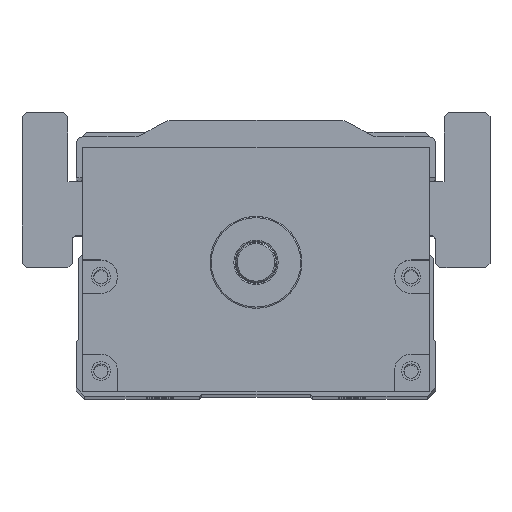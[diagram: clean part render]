
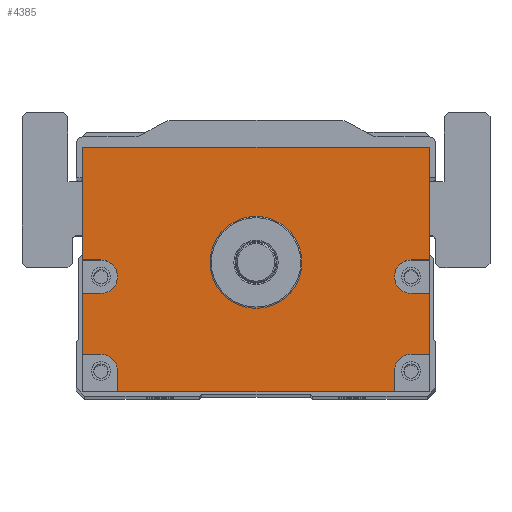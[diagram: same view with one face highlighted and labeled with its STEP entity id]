
A CAD part, top view. The second image highlights one B-rep face of the part: STEP entity #4385.
In plain terms, the highlighted planar face has unit normal (0, 0, 1).
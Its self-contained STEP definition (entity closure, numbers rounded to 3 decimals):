
#3754=FACE_BOUND('',#5991,.T.);
#3755=FACE_BOUND('',#5992,.T.);
#4385=ADVANCED_FACE('',(#3754,#3755),#4898,.T.);
#4898=PLANE('',#14887);
#5991=EDGE_LOOP('',(#9720,#9721,#9722,#9723,#9724,#9725,#9726,#9727,#9728,
#9729,#9730,#9731,#9732,#9733,#9734,#9735,#9736,#9737));
#5992=EDGE_LOOP('',(#9738));
#6894=LINE('',#21250,#7694);
#6896=LINE('',#21258,#7696);
#6897=LINE('',#21261,#7697);
#6898=LINE('',#21263,#7698);
#6899=LINE('',#21267,#7699);
#6900=LINE('',#21269,#7700);
#6901=LINE('',#21270,#7701);
#6902=LINE('',#21272,#7702);
#6903=LINE('',#21276,#7703);
#6904=LINE('',#21278,#7704);
#6905=LINE('',#21280,#7705);
#6906=LINE('',#21284,#7706);
#6907=LINE('',#21286,#7707);
#6908=LINE('',#21288,#7708);
#7694=VECTOR('',#17032,1.);
#7696=VECTOR('',#17040,1.);
#7697=VECTOR('',#17041,1.);
#7698=VECTOR('',#17042,1.);
#7699=VECTOR('',#17045,1.);
#7700=VECTOR('',#17046,1.);
#7701=VECTOR('',#17047,1.);
#7702=VECTOR('',#17048,1.);
#7703=VECTOR('',#17051,1.);
#7704=VECTOR('',#17052,1.);
#7705=VECTOR('',#17053,1.);
#7706=VECTOR('',#17056,1.);
#7707=VECTOR('',#17057,1.);
#7708=VECTOR('',#17058,1.);
#9720=ORIENTED_EDGE('',*,*,#13112,.F.);
#9721=ORIENTED_EDGE('',*,*,#13113,.T.);
#9722=ORIENTED_EDGE('',*,*,#13114,.F.);
#9723=ORIENTED_EDGE('',*,*,#13115,.F.);
#9724=ORIENTED_EDGE('',*,*,#13116,.F.);
#9725=ORIENTED_EDGE('',*,*,#13117,.T.);
#9726=ORIENTED_EDGE('',*,*,#13108,.T.);
#9727=ORIENTED_EDGE('',*,*,#13118,.T.);
#9728=ORIENTED_EDGE('',*,*,#13119,.F.);
#9729=ORIENTED_EDGE('',*,*,#13120,.F.);
#9730=ORIENTED_EDGE('',*,*,#13121,.F.);
#9731=ORIENTED_EDGE('',*,*,#13122,.T.);
#9732=ORIENTED_EDGE('',*,*,#13123,.F.);
#9733=ORIENTED_EDGE('',*,*,#13124,.F.);
#9734=ORIENTED_EDGE('',*,*,#13125,.F.);
#9735=ORIENTED_EDGE('',*,*,#13126,.T.);
#9736=ORIENTED_EDGE('',*,*,#13127,.F.);
#9737=ORIENTED_EDGE('',*,*,#13128,.F.);
#9738=ORIENTED_EDGE('',*,*,#13094,.T.);
#11743=VERTEX_POINT('',#21221);
#11756=VERTEX_POINT('',#21249);
#11757=VERTEX_POINT('',#21251);
#11760=VERTEX_POINT('',#21259);
#11761=VERTEX_POINT('',#21260);
#11762=VERTEX_POINT('',#21262);
#11763=VERTEX_POINT('',#21264);
#11764=VERTEX_POINT('',#21266);
#11765=VERTEX_POINT('',#21268);
#11766=VERTEX_POINT('',#21271);
#11767=VERTEX_POINT('',#21273);
#11768=VERTEX_POINT('',#21275);
#11769=VERTEX_POINT('',#21277);
#11770=VERTEX_POINT('',#21279);
#11771=VERTEX_POINT('',#21281);
#11772=VERTEX_POINT('',#21283);
#11773=VERTEX_POINT('',#21285);
#11774=VERTEX_POINT('',#21287);
#11775=VERTEX_POINT('',#21289);
#13094=EDGE_CURVE('',#11743,#11743,#14055,.T.);
#13108=EDGE_CURVE('',#11757,#11756,#6894,.T.);
#13112=EDGE_CURVE('',#11760,#11761,#6896,.T.);
#13113=EDGE_CURVE('',#11760,#11762,#6897,.T.);
#13114=EDGE_CURVE('',#11763,#11762,#6898,.T.);
#13115=EDGE_CURVE('',#11764,#11763,#14066,.T.);
#13116=EDGE_CURVE('',#11765,#11764,#6899,.T.);
#13117=EDGE_CURVE('',#11765,#11757,#6900,.T.);
#13118=EDGE_CURVE('',#11756,#11766,#6901,.T.);
#13119=EDGE_CURVE('',#11767,#11766,#6902,.T.);
#13120=EDGE_CURVE('',#11768,#11767,#14067,.T.);
#13121=EDGE_CURVE('',#11769,#11768,#6903,.T.);
#13122=EDGE_CURVE('',#11769,#11770,#6904,.T.);
#13123=EDGE_CURVE('',#11771,#11770,#6905,.T.);
#13124=EDGE_CURVE('',#11772,#11771,#14068,.T.);
#13125=EDGE_CURVE('',#11773,#11772,#6906,.T.);
#13126=EDGE_CURVE('',#11773,#11774,#6907,.T.);
#13127=EDGE_CURVE('',#11775,#11774,#6908,.T.);
#13128=EDGE_CURVE('',#11761,#11775,#14069,.T.);
#14055=CIRCLE('',#14869,11.);
#14066=CIRCLE('',#14883,4.);
#14067=CIRCLE('',#14884,4.);
#14068=CIRCLE('',#14885,4.);
#14069=CIRCLE('',#14886,4.);
#14869=AXIS2_PLACEMENT_3D('',#21220,#17005,#17006);
#14883=AXIS2_PLACEMENT_3D('',#21265,#17043,#17044);
#14884=AXIS2_PLACEMENT_3D('',#21274,#17049,#17050);
#14885=AXIS2_PLACEMENT_3D('',#21282,#17054,#17055);
#14886=AXIS2_PLACEMENT_3D('',#21290,#17059,#17060);
#14887=AXIS2_PLACEMENT_3D('',#21291,#17061,#17062);
#17005=DIRECTION('',(0.,0.,-1.));
#17006=DIRECTION('',(1.,0.,0.));
#17032=DIRECTION('',(-1.,0.,0.));
#17040=DIRECTION('',(-1.,0.,0.));
#17041=DIRECTION('',(0.,1.,0.));
#17042=DIRECTION('',(1.,0.,0.));
#17043=DIRECTION('',(0.,0.,1.));
#17044=DIRECTION('',(1.,0.,0.));
#17045=DIRECTION('',(-1.,0.,0.));
#17046=DIRECTION('',(0.,1.,0.));
#17047=DIRECTION('',(0.,-1.,0.));
#17048=DIRECTION('',(-1.,0.,0.));
#17049=DIRECTION('',(0.,0.,1.));
#17050=DIRECTION('',(1.,0.,0.));
#17051=DIRECTION('',(1.,0.,0.));
#17052=DIRECTION('',(0.,-1.,0.));
#17053=DIRECTION('',(-1.,0.,0.));
#17054=DIRECTION('',(0.,0.,1.));
#17055=DIRECTION('',(1.,0.,0.));
#17056=DIRECTION('',(0.,1.,0.));
#17057=DIRECTION('',(1.,0.,0.));
#17058=DIRECTION('',(0.,-1.,0.));
#17059=DIRECTION('',(0.,0.,1.));
#17060=DIRECTION('',(1.,0.,0.));
#17061=DIRECTION('',(0.,0.,1.));
#17062=DIRECTION('',(1.,0.,0.));
#21220=CARTESIAN_POINT('',(600.,0.,282.5));
#21221=CARTESIAN_POINT('',(611.,0.,282.5));
#21249=CARTESIAN_POINT('',(558.5,27.5,282.5));
#21250=CARTESIAN_POINT('',(641.5,27.5,282.5));
#21251=CARTESIAN_POINT('',(641.5,27.5,282.5));
#21258=CARTESIAN_POINT('',(641.5,-22.,282.5));
#21259=CARTESIAN_POINT('',(641.5,-22.,282.5));
#21260=CARTESIAN_POINT('',(637.115,-22.,282.5));
#21261=CARTESIAN_POINT('',(641.5,-31.,282.5));
#21262=CARTESIAN_POINT('',(641.5,-7.431,282.5));
#21263=CARTESIAN_POINT('',(641.5,-7.431,282.5));
#21264=CARTESIAN_POINT('',(637.115,-7.431,282.5));
#21265=CARTESIAN_POINT('',(637.115,-3.431,282.5));
#21266=CARTESIAN_POINT('',(637.115,0.569,282.5));
#21267=CARTESIAN_POINT('',(641.5,0.569,282.5));
#21268=CARTESIAN_POINT('',(641.5,0.569,282.5));
#21269=CARTESIAN_POINT('',(641.5,-31.,282.5));
#21270=CARTESIAN_POINT('',(558.5,27.5,282.5));
#21271=CARTESIAN_POINT('',(558.5,0.569,282.5));
#21272=CARTESIAN_POINT('',(641.5,0.569,282.5));
#21273=CARTESIAN_POINT('',(562.885,0.569,282.5));
#21274=CARTESIAN_POINT('',(562.885,-3.431,282.5));
#21275=CARTESIAN_POINT('',(562.885,-7.431,282.5));
#21276=CARTESIAN_POINT('',(641.5,-7.431,282.5));
#21277=CARTESIAN_POINT('',(558.5,-7.431,282.5));
#21278=CARTESIAN_POINT('',(558.5,27.5,282.5));
#21279=CARTESIAN_POINT('',(558.5,-22.,282.5));
#21280=CARTESIAN_POINT('',(641.5,-22.,282.5));
#21281=CARTESIAN_POINT('',(562.885,-22.,282.5));
#21282=CARTESIAN_POINT('',(562.885,-26.,282.5));
#21283=CARTESIAN_POINT('',(566.885,-26.,282.5));
#21284=CARTESIAN_POINT('',(566.885,-31.,282.5));
#21285=CARTESIAN_POINT('',(566.885,-31.,282.5));
#21286=CARTESIAN_POINT('',(558.5,-31.,282.5));
#21287=CARTESIAN_POINT('',(633.115,-31.,282.5));
#21288=CARTESIAN_POINT('',(633.115,-31.,282.5));
#21289=CARTESIAN_POINT('',(633.115,-26.,282.5));
#21290=CARTESIAN_POINT('',(637.115,-26.,282.5));
#21291=CARTESIAN_POINT('',(641.5,-31.,282.5));
